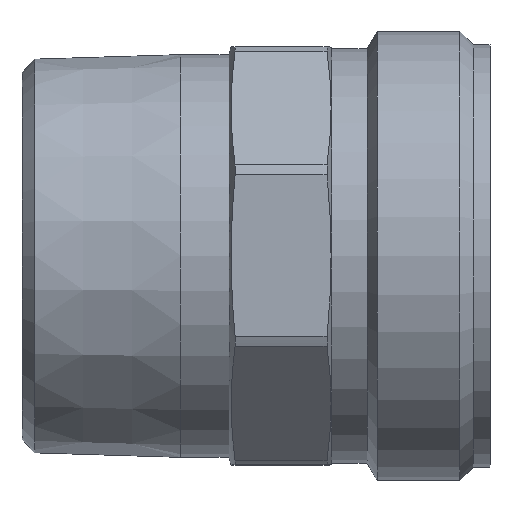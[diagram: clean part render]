
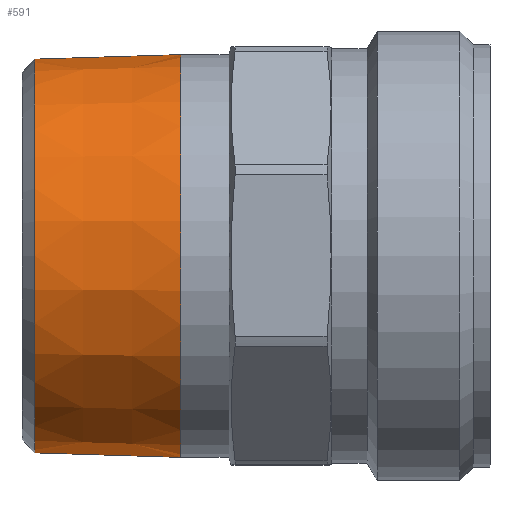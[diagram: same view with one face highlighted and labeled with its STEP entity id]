
A CAD part, top view. The second image highlights one B-rep face of the part: STEP entity #591.
In plain terms, the highlighted conical face has half-angle 1.78 degrees and reference radius 23.8 mm.
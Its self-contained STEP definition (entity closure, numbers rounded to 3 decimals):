
#123=CARTESIAN_POINT('',(19.0,24.095,0.0));
#124=VERTEX_POINT('',#123);
#133=CARTESIAN_POINT('',(19.0,-24.095,0.));
#134=VERTEX_POINT('',#133);
#135=CARTESIAN_POINT('',(19.0,0.0,0.0));
#136=DIRECTION('',(1.0,0.0,0.0));
#137=DIRECTION('',(0.0,1.0,0.0));
#138=AXIS2_PLACEMENT_3D('',#135,#136,#137);
#139=CIRCLE('',#138,24.095);
#140=EDGE_CURVE('',#124,#134,#139,.T.);
#560=CARTESIAN_POINT('',(9.5,0.0,0.0));
#561=DIRECTION('',(1.0,0.0,0.0));
#562=DIRECTION('',(0.0,1.0,0.0));
#563=AXIS2_PLACEMENT_3D('',#560,#561,#562);
#564=CONICAL_SURFACE('',#563,23.8,1.78);
#565=CARTESIAN_POINT('',(1.499,23.552,0.));
#566=VERTEX_POINT('',#565);
#567=CARTESIAN_POINT('',(1.499,23.552,0.));
#568=DIRECTION('',(1.,0.031,0.));
#569=VECTOR('',#568,17.509);
#570=LINE('',#567,#569);
#571=EDGE_CURVE('',#566,#124,#570,.T.);
#572=ORIENTED_EDGE('',*,*,#571,.F.);
#573=CARTESIAN_POINT('',(1.499,-23.552,0.));
#574=VERTEX_POINT('',#573);
#575=CARTESIAN_POINT('',(1.499,0.0,0.));
#576=DIRECTION('',(-1.0,0.0,0.0));
#577=DIRECTION('',(0.0,-1.0,0.0));
#578=AXIS2_PLACEMENT_3D('',#575,#576,#577);
#579=CIRCLE('',#578,23.552);
#580=EDGE_CURVE('',#574,#566,#579,.T.);
#581=ORIENTED_EDGE('',*,*,#580,.F.);
#582=CARTESIAN_POINT('',(19.0,-24.095,0.));
#583=DIRECTION('',(-1.,0.031,0.));
#584=VECTOR('',#583,17.509);
#585=LINE('',#582,#584);
#586=EDGE_CURVE('',#134,#574,#585,.T.);
#587=ORIENTED_EDGE('',*,*,#586,.F.);
#588=ORIENTED_EDGE('',*,*,#140,.F.);
#589=EDGE_LOOP('',(#572,#581,#587,#588));
#590=FACE_OUTER_BOUND('',#589,.T.);
#591=ADVANCED_FACE('',(#590),#564,.T.);
